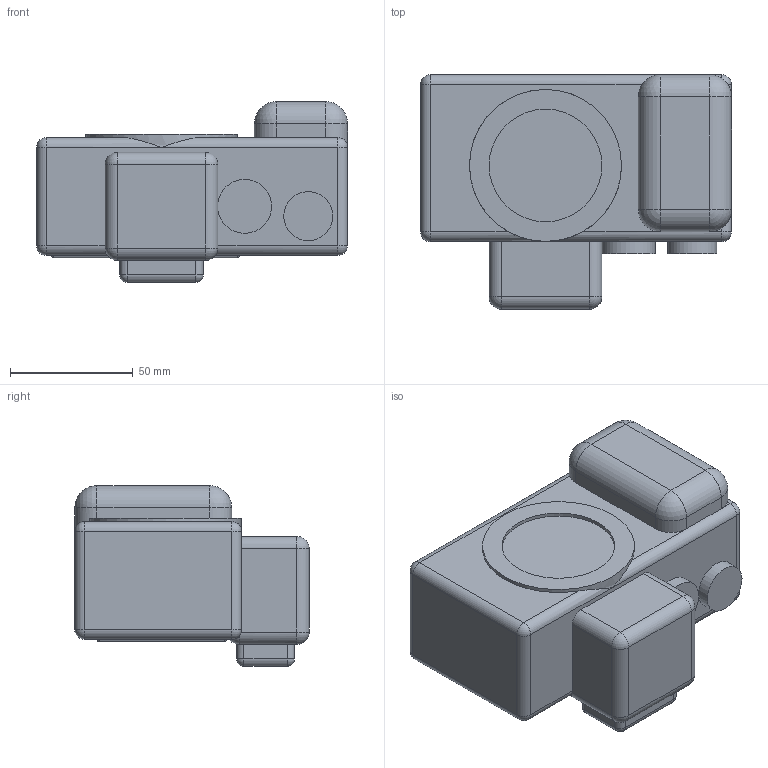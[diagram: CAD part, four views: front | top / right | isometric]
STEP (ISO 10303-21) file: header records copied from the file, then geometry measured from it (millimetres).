
FILE_DESCRIPTION(('Open CASCADE Model'),'2;1');
FILE_NAME('Open CASCADE Shape Model','2026-11-27T16:19:06',('Author'),( 'Open CASCADE'),'Open CASCADE STEP processor 7.9','Open CASCADE 7.9' ,'Unknown');
FILE_SCHEMA(('AUTOMOTIVE_DESIGN { 1 0 10303 214 1 1 1 1 }'));
Length unit declared in the file: millimetre
Products named in the file (1): Open CASCADE STEP translator 7.9 3
Bounding box: 126.9 x 95.6 x 73.7 mm (x, y, z)
Volume: 514270.2 mm3; surface area: 43146.2 mm2
Topology: 1 solids, 1 shells, 101 faces, 246 edges, 124 vertices
Faces by surface type: cylinder 50, sphere 26, plane 25
Full cylindrical faces by diameter (mm): 20 x1, 46 x1, 62 x1
Entity records: 6932 total; most frequent: CARTESIAN_POINT 2579, DIRECTION 796, ORIENTED_EDGE 440, PCURVE 440, DEFINITIONAL_REPRESENTATION 440, LINE 369, VECTOR 369, EDGE_CURVE 220
